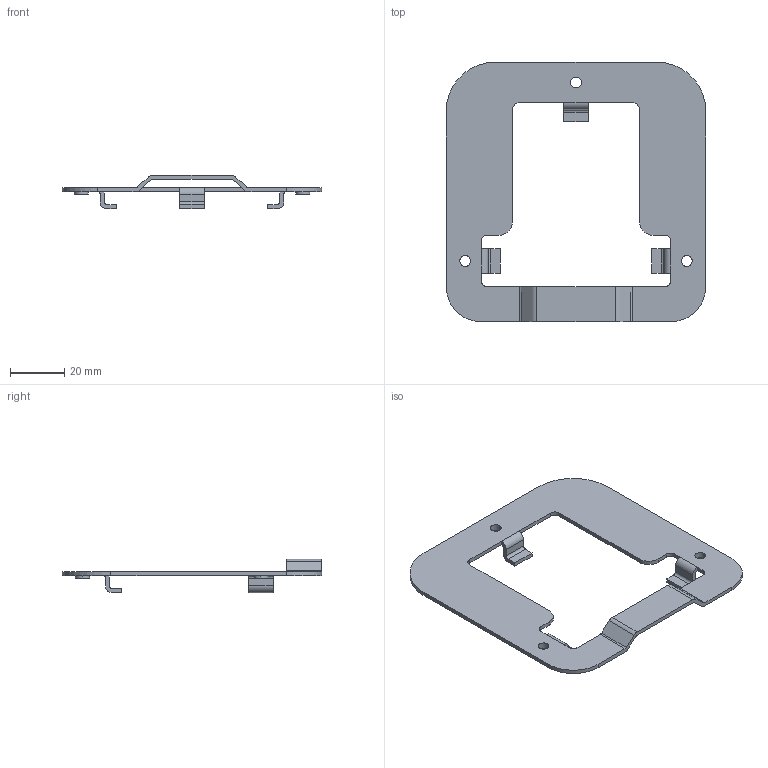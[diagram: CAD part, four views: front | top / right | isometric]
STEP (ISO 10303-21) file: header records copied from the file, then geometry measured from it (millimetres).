
FILE_DESCRIPTION (( 'STEP AP203' ), '1' );
FILE_NAME ('3D 祛溴朦 想囫蜩磬 侍1_2.STEP', '2016-07-08T06:36:48', ( '' ), ( '' ), 'SwSTEP 2.0', 'SolidWorks 2013', '' );
FILE_SCHEMA (( 'CONFIG_CONTROL_DESIGN' ));
Length unit declared in the file: millimetre
Products named in the file (1): 3D 祛溴朦 想囫蜩磬 侍1_2
Bounding box: 96 x 96 x 12.3 mm (x, y, z)
Volume: 8558.5 mm3; surface area: 12565 mm2
Topology: 1 solids, 1 shells, 91 faces, 252 edges, 164 vertices
Faces by surface type: plane 47, cylinder 44
Entity records: 3011 total; most frequent: DIRECTION 524, CARTESIAN_POINT 508, ORIENTED_EDGE 504, EDGE_CURVE 252, AXIS2_PLACEMENT_3D 180, VECTOR 164, VERTEX_POINT 164, LINE 164
